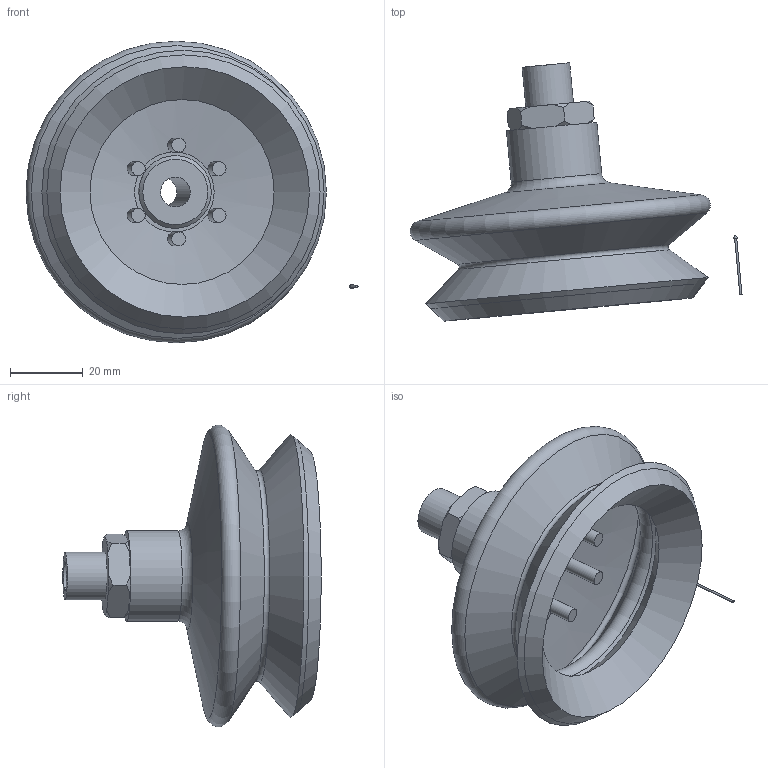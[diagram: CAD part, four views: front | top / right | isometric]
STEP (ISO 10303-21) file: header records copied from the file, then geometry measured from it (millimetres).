
FILE_DESCRIPTION(('STEP AP214'),'1');
FILE_NAME('KIT.08.26.D78.24.stp','2019-04-29T08:15:16',(' '),(' '),'Spatial InterOp 3D',' ',' ');
FILE_SCHEMA(('AUTOMOTIVE_DESIGN { 1 0 10303 214 1 1 1 1 }'));
Length unit declared in the file: millimetre
Products named in the file (6): KIT.08.26.D78.24; CA.08.09.024; CA.08.26.D78.AS; FRECCIA.16.5; 08.26.D78; 08.26.D78.AS
Assembly tree (5 placements, depth 3):
  KIT.08.26.D78.24
    CA.08.09.024
    CA.08.26.D78.AS
      FRECCIA.16.5
      08.26.D78
      08.26.D78.AS
Bounding box: 91.36 x 71.08 x 82.98 mm (x, y, z)
Volume: 51581.2 mm3; surface area: 38231.7 mm2
Topology: 4 solids, 4 shells, 64 faces, 145 edges, 90 vertices
Faces by surface type: cone 25, plane 21, cylinder 13, torus 5
Full cylindrical faces by diameter (mm): 0.6 x1, 3.8 x6, 8.2 x1, 12 x1, 13.157 x1, 13.5 x1, 20 x1, 25 x1
Entity records: 2691 total; most frequent: CARTESIAN_POINT 812, DIRECTION 270, ORIENTED_EDGE 206, AXIS2_PLACEMENT_3D 126, EDGE_CURVE 103, EDGE_LOOP 102, FACE_OUTER_BOUND 82, VERTEX_POINT 80
